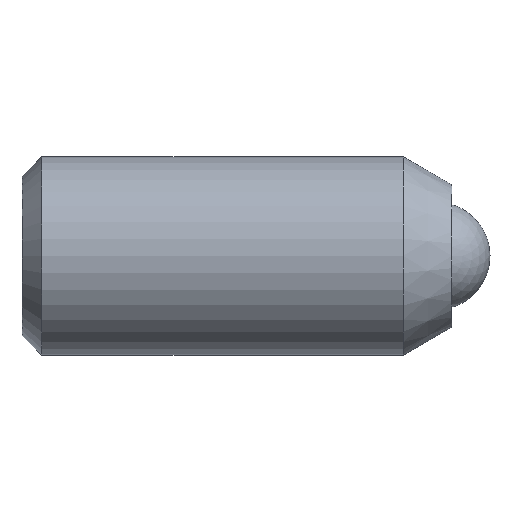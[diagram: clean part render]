
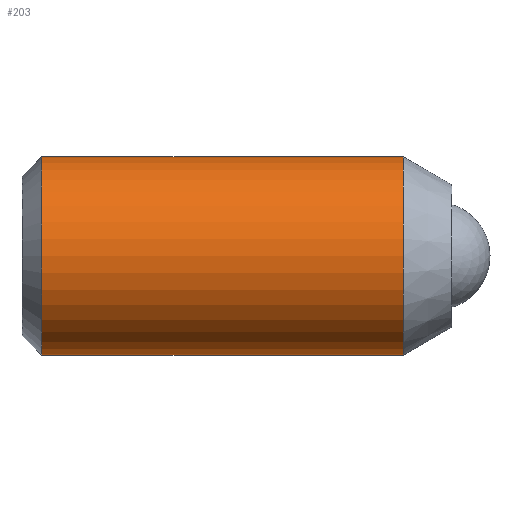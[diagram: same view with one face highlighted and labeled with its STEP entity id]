
A CAD part, top view. The second image highlights one B-rep face of the part: STEP entity #203.
In plain terms, the highlighted cylindrical face has radius 6 mm (diameter 12 mm), a partial arc.
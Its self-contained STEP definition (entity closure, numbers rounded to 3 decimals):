
#9 = CARTESIAN_POINT ( 'NONE',  ( -27.1, 6., 0. ) ) ;
#14 = EDGE_LOOP ( 'NONE', ( #636, #255, #214, #480 ) ) ;
#24 = VECTOR ( 'NONE', #296, 1000. ) ;
#37 = CYLINDRICAL_SURFACE ( 'NONE', #596, 6. ) ;
#94 = AXIS2_PLACEMENT_3D ( 'NONE', #667, #624, #149 ) ;
#100 = DIRECTION ( 'NONE',  ( 1., 0., 0. ) ) ;
#149 = DIRECTION ( 'NONE',  ( 0., 1., 0. ) ) ;
#187 = DIRECTION ( 'NONE',  ( 1., 0., 0. ) ) ;
#203 = ADVANCED_FACE ( 'NONE', ( #533 ), #37, .T. ) ;
#214 = ORIENTED_EDGE ( 'NONE', *, *, #642, .F. ) ;
#231 = AXIS2_PLACEMENT_3D ( 'NONE', #385, #187, #515 ) ;
#243 = DIRECTION ( 'NONE',  ( 0., 1., 0. ) ) ;
#255 = ORIENTED_EDGE ( 'NONE', *, *, #482, .T. ) ;
#283 = VECTOR ( 'NONE', #347, 1000. ) ;
#296 = DIRECTION ( 'NONE',  ( 1., 0., 0. ) ) ;
#301 = CARTESIAN_POINT ( 'NONE',  ( 0., 6., 0. ) ) ;
#331 = CIRCLE ( 'NONE', #231, 6. ) ;
#347 = DIRECTION ( 'NONE',  ( 1., 0., 0. ) ) ;
#385 = CARTESIAN_POINT ( 'NONE',  ( -27.1, 0., 0. ) ) ;
#405 = LINE ( 'NONE', #301, #24 ) ;
#410 = EDGE_CURVE ( 'NONE', #527, #552, #331, .T. ) ;
#440 = CIRCLE ( 'NONE', #94, 6. ) ;
#461 = VERTEX_POINT ( 'NONE', #672 ) ;
#464 = CARTESIAN_POINT ( 'NONE',  ( -5.244, 6., 0. ) ) ;
#467 = CARTESIAN_POINT ( 'NONE',  ( -27.1, -6., 0. ) ) ;
#480 = ORIENTED_EDGE ( 'NONE', *, *, #612, .F. ) ;
#482 = EDGE_CURVE ( 'NONE', #552, #461, #664, .T. ) ;
#515 = DIRECTION ( 'NONE',  ( 0., 1., 0. ) ) ;
#522 = CARTESIAN_POINT ( 'NONE',  ( 0., -6., 0. ) ) ;
#527 = VERTEX_POINT ( 'NONE', #9 ) ;
#533 = FACE_OUTER_BOUND ( 'NONE', #14, .T. ) ;
#552 = VERTEX_POINT ( 'NONE', #467 ) ;
#582 = CARTESIAN_POINT ( 'NONE',  ( 0., 0., 0. ) ) ;
#596 = AXIS2_PLACEMENT_3D ( 'NONE', #582, #100, #243 ) ;
#606 = VERTEX_POINT ( 'NONE', #464 ) ;
#612 = EDGE_CURVE ( 'NONE', #527, #606, #405, .T. ) ;
#624 = DIRECTION ( 'NONE',  ( 1., 0., 0. ) ) ;
#636 = ORIENTED_EDGE ( 'NONE', *, *, #410, .T. ) ;
#642 = EDGE_CURVE ( 'NONE', #606, #461, #440, .T. ) ;
#664 = LINE ( 'NONE', #522, #283 ) ;
#667 = CARTESIAN_POINT ( 'NONE',  ( -5.244, 0., 0. ) ) ;
#672 = CARTESIAN_POINT ( 'NONE',  ( -5.244, -6., 0. ) ) ;
